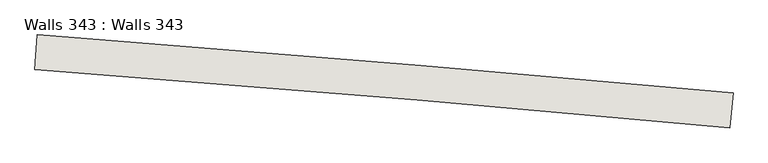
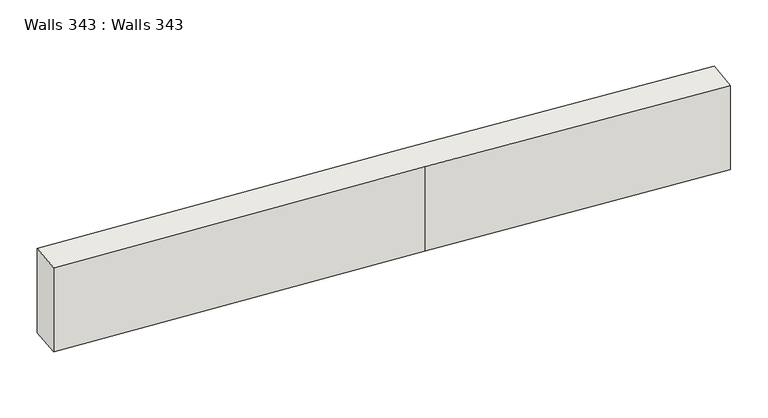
"""IFC4 building model written with IfcOpenShell, lengths in millimetres: wall geometry, Walls 343 : Walls 343."""

from ifc_helpers import new_model, si_unit, point, frame, frame_2d, origin, place, context, project, spatial, polyline, circle_curve, trimmed, segment, composite_curve, outline, extrude, source, transform, mapped, element, save


def walls_343_walls_343_f9958c46(model_context):
    return source(origin(), model_context, "Body", "SweptSolid", [
        extrude(outline(composite_curve([segment(polyline([(-774239.1408426, -409702.9034846), (-774274.6357727, -410101.3255095), (-777859.4472943, -409781.9590431)]), True, "CONTINUOUS"), segment(trimmed(circle_curve(frame_2d((-800043.7786611, -658795.7254934)), 250000.00088), [point((-777859.4472943, -409781.9590431))], [point((-782246.2872282, -409430.0307023))], True, "CARTESIAN"), True, "CONTINUOUS"), segment(polyline([(-782246.2872282, -409430.0307023), (-782217.811242, -409031.045592)]), True, "CONTINUOUS"), segment(trimmed(circle_curve(frame_2d((-800043.7786611, -658795.7254934)), 250400.00088), [point((-782217.811242, -409031.045592))], [point((-777823.9523642, -409383.5370182))], False, "CARTESIAN"), True, "CONTINUOUS"), segment(polyline([(-777823.9523642, -409383.5370182), (-774239.1408426, -409702.9034846)]), True, "CONTINUOUS")], self_intersect=False)), frame((0.0, 0.0, 636360.0), z_axis=(0.0, 0.0, 1.0), x_axis=(1.0, 0.0, 0.0)), (0.0, 0.0, 1.0), 1100.0),
    ])


if __name__ == "__main__":
    model = new_model("IFC4")
    model_context = context("Model", 3, world=origin())
    ifc_project = project(units=[si_unit("LENGTHUNIT", "METRE", prefix="MILLI")], contexts=[model_context])
    site = spatial("IfcSite", under=ifc_project)
    building = spatial("IfcBuilding", under=site)
    placement = place(None, origin())
    walls_343_walls_343_shape = walls_343_walls_343_f9958c46(model_context)
    element("IfcWall", 1, ObjectType="Walls 343 : Walls 343", at=placement, inside=building, context=model_context, shape_type="MappedRepresentation", body=[
        mapped(walls_343_walls_343_shape, transform((0.0, 0.0, 0.0), x_axis=(1.0, 0.0, 0.0), y_axis=(0.0, 1.0, 0.0), z_axis=(0.0, 0.0, 1.0))),
    ])
    save(model, "model.ifc")
